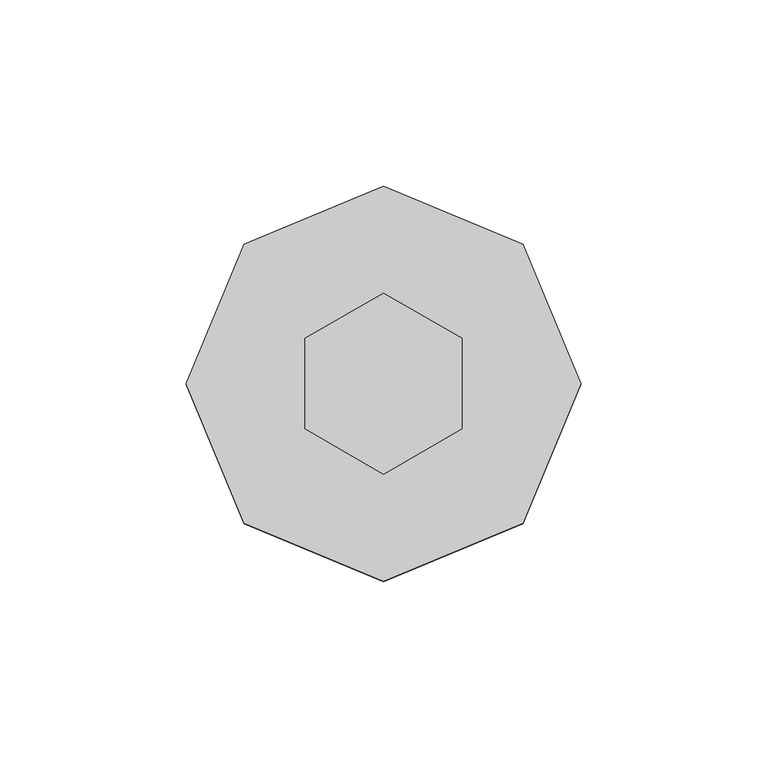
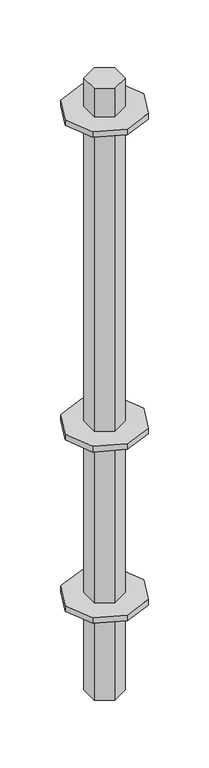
"""IFC4 building model written with IfcOpenShell, lengths in millimetres: proxy geometry, AK_アルバトロスＡＫ支柱L=900_軽 : AK_アルバトロスＡＫ支柱L=900."""

from ifc_helpers import new_model, si_unit, frame, origin, origin_with_axes, place, context, project, spatial, polyline, outline, extrude, source, transform, mapped, element, save


def generic_models_1dade7e1(model_context):
    return source(origin(), model_context, "Body", "SweptSolid", [
        extrude(outline(polyline([(-37.4766594, 37.4766594), (0.0, 53.0), (37.4766594, 37.4766594), (53.0, 0.0), (37.4766594, -37.4766594), (0.0, -53.0), (-37.4766594, -37.4766594), (-53.0, 0.0), (-37.4766594, 37.4766594)])), frame((0.0, 0.0, 131.0), z_axis=(0.0, 0.0, 1.0), x_axis=(1.0, 0.0, 0.0)), (0.0, 0.0, 1.0), 8.0),
        extrude(outline(polyline([(-37.4766594, 37.4766594), (0.0, 53.0), (37.4766594, 37.4766594), (53.0, 0.0), (37.4766594, -37.4766594), (0.0, -53.0), (-37.4766594, -37.4766594), (-53.0, 0.0), (-37.4766594, 37.4766594)])), frame((0.0, 0.0, 826.0), z_axis=(0.0, 0.0, 1.0), x_axis=(1.0, 0.0, 0.0)), (0.0, 0.0, 1.0), 8.0),
        extrude(outline(polyline([(-37.4766594, 37.4766594), (0.0, 53.0), (37.4766594, 37.4766594), (53.0, 0.0), (37.4766594, -37.4766594), (0.0, -53.0), (-37.4766594, -37.4766594), (-53.0, 0.0), (-37.4766594, 37.4766594)])), frame((0.0, 0.0, 376.0), z_axis=(0.0, 0.0, 1.0), x_axis=(1.0, 0.0, 0.0)), (0.0, 0.0, 1.0), 8.0),
        extrude(outline(polyline([(-21.0444173, 12.15), (0.0, 24.3), (21.0444173, 12.15), (21.0444173, -12.15), (0.0, -24.3), (-21.0444173, -12.15), (-21.0444173, 12.15)])), origin_with_axes(), (0.0, 0.0, 1.0), 875.0),
    ])


if __name__ == "__main__":
    model = new_model("IFC4")
    model_context = context("Model", 3, world=origin())
    ifc_project = project(units=[si_unit("LENGTHUNIT", "METRE", prefix="MILLI")], contexts=[model_context])
    site = spatial("IfcSite", under=ifc_project)
    building = spatial("IfcBuilding", under=site)
    placement = place(None, origin())
    generic_models_shape = generic_models_1dade7e1(model_context)
    element("IfcBuildingElementProxy", 1, Name="AK_アルバトロスＡＫ支柱L=900_軽 : AK_アルバトロスＡＫ支柱L=900", ObjectType="AK_アルバトロスＡＫ支柱L=900_軽 : AK_アルバトロスＡＫ支柱L=900", at=placement, inside=building, context=model_context, shape_type="MappedRepresentation", body=[
        mapped(generic_models_shape, transform((0.0, 0.0, 0.0), x_axis=(1.0, 0.0, 0.0), y_axis=(0.0, 1.0, 0.0), z_axis=(0.0, 0.0, 1.0))),
    ])
    save(model, "model.ifc")
